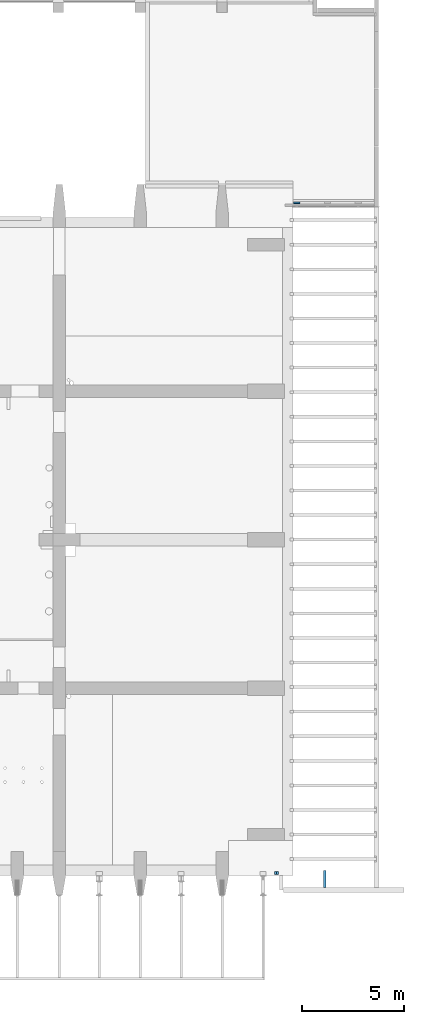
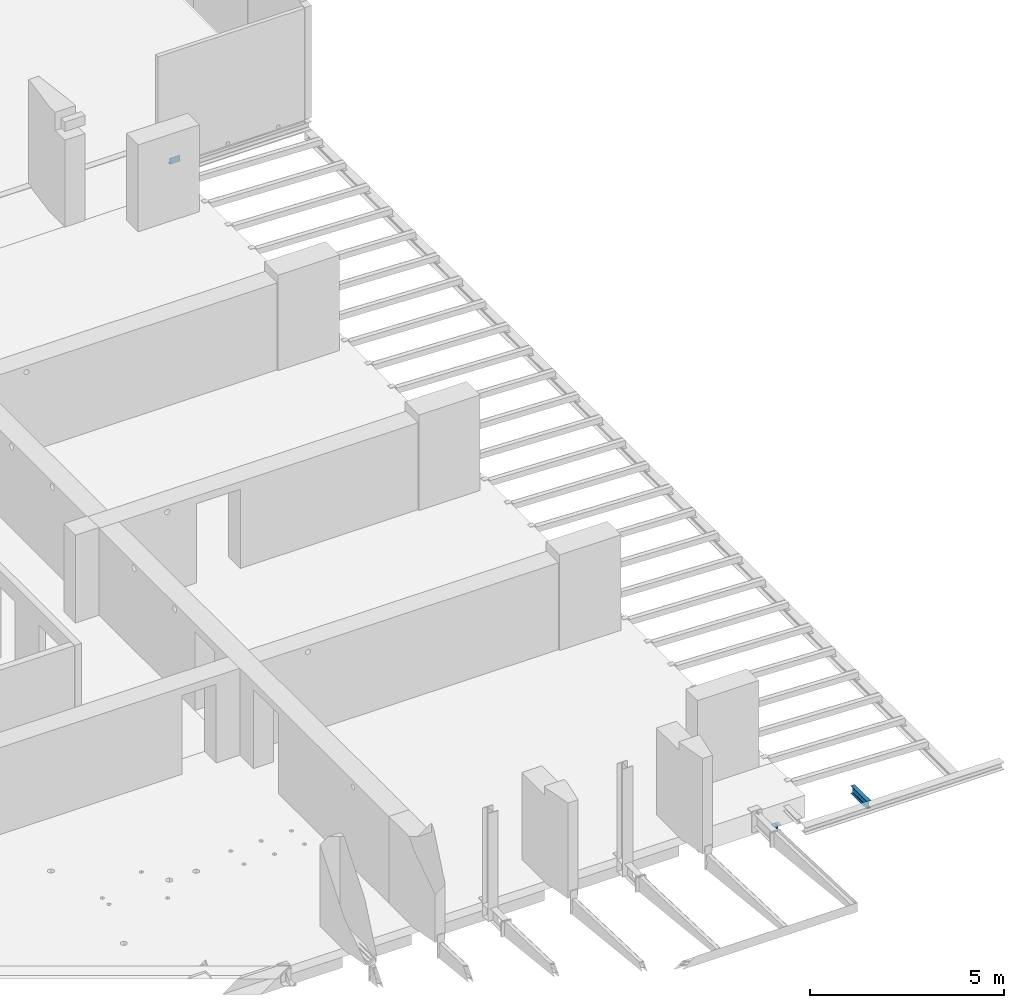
# One storey, part 14 of 27: 4 beams.
"""IFC2X3 building model written with IfcOpenShell, lengths in millimetres."""

from ifc_helpers import new_model, entity, si_unit, converted_unit, derived_unit, direction, frame, frame_2d, origin, place, context, subcontext, project, spatial, polyline, circle_curve, parameter, trimmed, segment, composite_curve, i_section, outline, extrude, boolean, material, type_object, element, save


model = new_model("IFC2X3")

# Units and contexts
model_context = context("Model", 3, precision=0.01, world=origin(), true_north=direction((6.12303176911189e-17, 1.0)))
body_context = subcontext(model_context, "Body", "Model", "MODEL_VIEW")
ifc_project = project(units=[si_unit("LENGTHUNIT", "METRE", prefix="MILLI"), si_unit("AREAUNIT", "SQUARE_METRE"), si_unit("VOLUMEUNIT", "CUBIC_METRE"), converted_unit("PLANEANGLEUNIT", "DEGREE", entity("IfcRatioMeasure", 0.0174532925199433), si_unit("PLANEANGLEUNIT", "RADIAN"), dimensions=[0, 0, 0, 0, 0, 0, 0]), si_unit("MASSUNIT", "GRAM", prefix="KILO"), derived_unit("MASSDENSITYUNIT", [(si_unit("MASSUNIT", "GRAM", prefix="KILO"), 1), (si_unit("LENGTHUNIT", "METRE"), -3)]), si_unit("TIMEUNIT", "SECOND"), si_unit("FREQUENCYUNIT", "HERTZ"), si_unit("THERMODYNAMICTEMPERATUREUNIT", "DEGREE_CELSIUS"), derived_unit("THERMALTRANSMITTANCEUNIT", [(si_unit("MASSUNIT", "GRAM", prefix="KILO"), 1), (si_unit("THERMODYNAMICTEMPERATUREUNIT", "KELVIN"), -1), (si_unit("TIMEUNIT", "SECOND"), -3)]), derived_unit("VOLUMETRICFLOWRATEUNIT", [(si_unit("LENGTHUNIT", "METRE"), 3), (si_unit("TIMEUNIT", "SECOND"), -1)]), si_unit("ELECTRICCURRENTUNIT", "AMPERE"), si_unit("ELECTRICVOLTAGEUNIT", "VOLT"), si_unit("POWERUNIT", "WATT"), si_unit("FORCEUNIT", "NEWTON", prefix="KILO"), si_unit("ILLUMINANCEUNIT", "LUX"), si_unit("LUMINOUSFLUXUNIT", "LUMEN"), si_unit("LUMINOUSINTENSITYUNIT", "CANDELA"), derived_unit("USERDEFINED", [(si_unit("MASSUNIT", "GRAM", prefix="KILO"), -1), (si_unit("LENGTHUNIT", "METRE"), -2), (si_unit("TIMEUNIT", "SECOND"), 3), (si_unit("LUMINOUSFLUXUNIT", "LUMEN"), 1)]), derived_unit("LINEARVELOCITYUNIT", [(si_unit("LENGTHUNIT", "METRE"), 1), (si_unit("TIMEUNIT", "SECOND"), -1)]), si_unit("PRESSUREUNIT", "PASCAL"), derived_unit("USERDEFINED", [(si_unit("LENGTHUNIT", "METRE"), -2), (si_unit("MASSUNIT", "GRAM", prefix="KILO"), 1), (si_unit("TIMEUNIT", "SECOND"), -2)])], contexts=[model_context])

# Site, building, storey
site_placement = place(None, origin())
site = spatial("IfcSite", under=ifc_project, at=site_placement, Name="Default", CompositionType="ELEMENT")
building_placement = place(site_placement, origin())
building = spatial("IfcBuilding", under=site, at=building_placement, Name="niet gebruiken", CompositionType="ELEMENT")
storey_placement = place(building_placement, frame((0.0, 0.0, 6000.0)))
storey = spatial("IfcBuildingStorey", under=building, at=storey_placement, Name="01 eerste verdieping", CompositionType="ELEMENT", Elevation=6000.0)

# Beams
ifc_material = material(Name="NLRS_h2_staal")
beam_type_1 = type_object("IfcBeamType", Name="NLRS_28.11_SF_WPB_stalen ligger hoekprofiel gelijkzijdig_gen:ligger gelijzijdig hoekprofiel LEQU_100x100x10", PredefinedType="BEAM")
beam_1_placement = place(storey_placement, frame((158403.1, 1146.0, -790.0), z_axis=(0.0, 0.0, 1.0), x_axis=(0.0, 1.0, 0.0)))
element("IfcBeam", 1, at=beam_1_placement, inside=storey, type_object=beam_type_1, material=ifc_material, Name="NLRS_28.11_SF_WPB_stalen ligger hoekprofiel gelijkzijdig_gen:ligger gelijzijdig hoekprofiel LEQU_100x100x10", ObjectType="NLRS_28.11_SF_WPB_stalen ligger hoekprofiel gelijkzijdig_gen:ligger gelijzijdig hoekprofiel LEQU_100x100x10", context=body_context, shape_type="CSG", body=[
    boolean("DIFFERENCE", extrude(outline(composite_curve([segment(polyline([(-37.7777777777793, -62.222222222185), (-33.777777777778, -62.222222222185)]), True, "CONTINUOUS"), segment(trimmed(circle_curve(frame_2d((-33.7777777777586, -56.2222222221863), x_axis=(0.0, -1.0)), 5.99999999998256), [parameter(0.0)], [parameter(90.0000000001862)], True, "PARAMETER"), True, "CONTINUOUS"), segment(polyline([(-27.7777777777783, -56.2222222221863), (-27.7777777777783, 15.7777777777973)]), True, "CONTINUOUS"), segment(trimmed(circle_curve(frame_2d((-15.7777777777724, 15.7777777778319), x_axis=(-1.0, 0.0)), 12.0000000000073), [parameter(270.000000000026)], [parameter(0.0)], True, "PARAMETER"), False, "CONTINUOUS"), segment(polyline([(-15.7777777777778, 27.7777777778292), (56.2222222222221, 27.7777777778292)]), True, "CONTINUOUS"), segment(trimmed(circle_curve(frame_2d((56.2222222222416, 33.7777777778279), x_axis=(0.0, -1.0)), 5.99999999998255), [parameter(0.0)], [parameter(90.0000000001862)], True, "PARAMETER"), True, "CONTINUOUS"), segment(polyline([(62.2222222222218, 33.7777777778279), (62.2222222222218, 37.7777777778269)]), True, "CONTINUOUS"), segment(polyline([(62.2222222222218, 37.7777777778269), (-37.7777777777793, 37.7777777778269)]), True, "CONTINUOUS"), segment(polyline([(-37.7777777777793, 37.7777777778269), (-37.7777777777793, -62.222222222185)]), True, "CONTINUOUS")], self_intersect=False)), frame((6.0960005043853e-07, -37.7777777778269, -37.7777777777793), z_axis=(1.0, 0.0, 0.0), x_axis=(0.0, 0.0, -1.0)), (0.0, 0.0, 1.0), 149.9999993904), extrude(outline(composite_curve([segment(polyline([(-7.50000000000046, -7.0), (7.50000000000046, -7.0)]), True, "CONTINUOUS"), segment(trimmed(circle_curve(frame_2d((7.50000000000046, 0.0), x_axis=(0.0, 1.0)), 7.00000000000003), [parameter(180.0)], [parameter(0.0)], True, "PARAMETER"), True, "CONTINUOUS"), segment(polyline([(7.50000000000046, 7.0), (-7.50000000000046, 7.0)]), True, "CONTINUOUS"), segment(trimmed(circle_curve(frame_2d((-7.50000000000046, 0.0), x_axis=(0.0, 1.0)), 7.00000000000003), [parameter(0.0)], [parameter(180.0)], True, "PARAMETER"), True, "CONTINUOUS")], self_intersect=False)), frame((75.0000003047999, 0.0, -60.4999999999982), z_axis=(0.0, -1.0, 0.0), x_axis=(0.0, 0.0, -1.0)), (0.0, 0.0, 1.0), 9.99999999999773)),
])
beam_2_placement = place(storey_placement, frame((158396.9, 1146.0, -790.0), z_axis=(0.0, 0.0, 1.0), x_axis=(0.0, 1.0, 0.0)))
element("IfcBeam", 2, at=beam_2_placement, inside=storey, type_object=beam_type_1, material=ifc_material, Name="NLRS_28.11_SF_WPB_stalen ligger hoekprofiel gelijkzijdig_gen:ligger gelijzijdig hoekprofiel LEQU_100x100x10", ObjectType="NLRS_28.11_SF_WPB_stalen ligger hoekprofiel gelijkzijdig_gen:ligger gelijzijdig hoekprofiel LEQU_100x100x10", context=body_context, shape_type="SweptSolid", body=[
    extrude(outline(composite_curve([segment(polyline([(-37.7777777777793, -37.7777777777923), (62.2222222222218, -37.7777777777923)]), True, "CONTINUOUS"), segment(polyline([(62.2222222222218, -37.7777777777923), (62.2222222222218, -33.7777777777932)]), True, "CONTINUOUS"), segment(trimmed(circle_curve(frame_2d((56.2222222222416, -33.7777777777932), x_axis=(1.0, 0.0)), 5.99999999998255), [parameter(0.0)], [parameter(90.0000000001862)], True, "PARAMETER"), True, "CONTINUOUS"), segment(polyline([(56.2222222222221, -27.7777777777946), (-15.7777777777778, -27.7777777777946)]), True, "CONTINUOUS"), segment(trimmed(circle_curve(frame_2d((-15.7777777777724, -15.7777777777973), x_axis=(0.0, -1.0)), 12.0000000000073), [parameter(270.000000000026)], [parameter(0.0)], True, "PARAMETER"), False, "CONTINUOUS"), segment(polyline([(-27.7777777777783, -15.7777777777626), (-27.7777777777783, 56.222222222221)]), True, "CONTINUOUS"), segment(trimmed(circle_curve(frame_2d((-33.7777777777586, 56.222222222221), x_axis=(1.0, 0.0)), 5.99999999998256), [parameter(0.0)], [parameter(90.0000000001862)], True, "PARAMETER"), True, "CONTINUOUS"), segment(polyline([(-33.777777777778, 62.2222222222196), (-37.7777777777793, 62.2222222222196)]), True, "CONTINUOUS"), segment(polyline([(-37.7777777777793, 62.2222222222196), (-37.7777777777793, -37.7777777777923)]), True, "CONTINUOUS")], self_intersect=False)), frame((6.0960005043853e-07, 37.7777777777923, -37.7777777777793), z_axis=(1.0, 0.0, 0.0), x_axis=(0.0, 0.0, -1.0)), (0.0, 0.0, 1.0), 149.9999993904),
])
beam_type_2 = type_object("IfcBeamType", Name="NLRS_28.11_SF_WPB_stalen ligger IPE_gen:ligger IPE 240", PredefinedType="BEAM")
beam_3_placement = place(storey_placement, frame((160750.0, 510.0, -445.0), z_axis=(0.0, 0.0, 1.0), x_axis=(0.0, 1.0, 0.0)))
element("IfcBeam", 3, at=beam_3_placement, inside=storey, type_object=beam_type_2, material=ifc_material, Name="NLRS_28.11_SF_WPB_stalen ligger IPE_gen:ligger IPE 240", ObjectType="NLRS_28.11_SF_WPB_stalen ligger IPE_gen:ligger IPE 240", context=body_context, shape_type="SweptSolid", body=[
    extrude(i_section(OverallWidth=119.999999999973, OverallDepth=240.000000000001, WebThickness=6.19999999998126, FlangeThickness=9.79999999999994, FilletRadius=15.0000000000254, at=frame_2d((0.0, 3.46496165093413e-11), x_axis=(0.0, 1.0))), frame((0.0, 0.0, -120.0), z_axis=(1.0, 0.0, 0.0), x_axis=(0.0, 0.0, -1.0)), (0.0, 0.0, 1.0), 831.00000000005),
])
beam_type_3 = type_object("IfcBeamType", Name="NLRS_28.11_SF_WPB_stalen ligger hoekprofiel ongelijkzijdig_gen:ligger ongelijzijdig hoekprofiel LUEQ_200x100x10", PredefinedType="BEAM")
beam_4_placement = place(storey_placement, frame((159245.0, 33910.13, 40.0)))
element("IfcBeam", 4, at=beam_4_placement, inside=storey, type_object=beam_type_3, material=ifc_material, Name="NLRS_28.11_SF_WPB_stalen ligger hoekprofiel ongelijkzijdig_gen:ligger ongelijzijdig hoekprofiel LUEQ_200x100x10", ObjectType="NLRS_28.11_SF_WPB_stalen ligger hoekprofiel ongelijkzijdig_gen:ligger ongelijzijdig hoekprofiel LUEQ_200x100x10", context=body_context, shape_type="SweptSolid", body=[
    extrude(outline(composite_curve([segment(polyline([(-128.88888888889, -37.7777777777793), (71.1111111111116, -37.7777777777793)]), True, "CONTINUOUS"), segment(polyline([(71.1111111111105, -37.7777777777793), (71.1111111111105, 62.222222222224)]), True, "CONTINUOUS"), segment(polyline([(71.1111111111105, 62.2222222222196), (68.61111111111, 62.2222222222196)]), True, "CONTINUOUS"), segment(trimmed(circle_curve(frame_2d((68.6111111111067, 54.7222222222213), x_axis=(0.0, 1.0)), 7.49999999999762), [parameter(0.0)], [parameter(90.0000000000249)], True, "PARAMETER"), True, "CONTINUOUS"), segment(polyline([(61.1111111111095, 54.7222222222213), (61.1111111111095, -12.7777777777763)]), True, "CONTINUOUS"), segment(trimmed(circle_curve(frame_2d((46.1111111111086, -12.7777777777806), x_axis=(1.0, 0.0)), 15.0000000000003), [parameter(270.000000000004)], [parameter(0.0)], True, "PARAMETER"), False, "CONTINUOUS"), segment(polyline([(46.1111111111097, -27.7777777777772), (-121.38888888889, -27.7777777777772)]), True, "CONTINUOUS"), segment(trimmed(circle_curve(frame_2d((-121.388888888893, -35.2777777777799), x_axis=(0.0, 1.0)), 7.49999999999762), [parameter(0.0)], [parameter(90.0000000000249)], True, "PARAMETER"), True, "CONTINUOUS"), segment(polyline([(-128.88888888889, -35.2777777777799), (-128.88888888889, -37.7777777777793)]), True, "CONTINUOUS")], self_intersect=False)), frame((0.0, 17.6477777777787, -128.888888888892), z_axis=(1.0, 0.0, 0.0), x_axis=(0.0, 0.0, -1.0)), (0.0, 0.0, 1.0), 300.000000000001),
])

save(model, "model.ifc")
